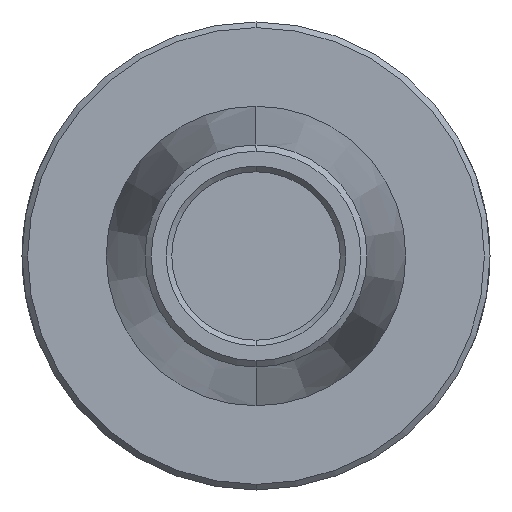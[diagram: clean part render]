
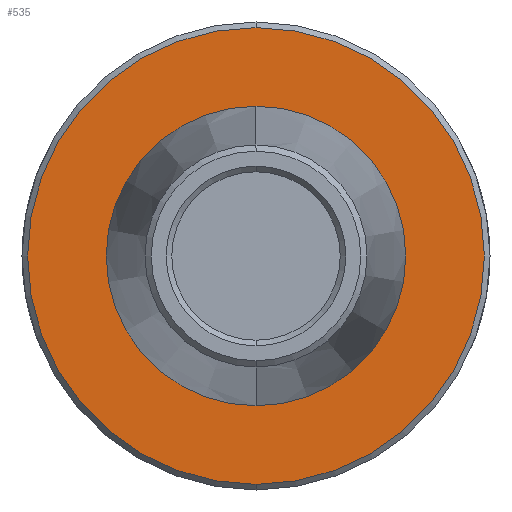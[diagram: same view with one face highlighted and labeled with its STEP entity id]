
A CAD part, front view. The second image highlights one B-rep face of the part: STEP entity #535.
In plain terms, the highlighted planar face has unit normal (0, -1, 0).
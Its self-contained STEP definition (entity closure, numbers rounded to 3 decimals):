
#23 = AXIS2_PLACEMENT_3D ( 'NONE', #168, #560, #638 ) ;
#34 = CIRCLE ( 'NONE', #533, 8. ) ;
#65 = DIRECTION ( 'NONE',  ( 0., -1., 0. ) ) ;
#117 = AXIS2_PLACEMENT_3D ( 'NONE', #898, #980, #681 ) ;
#168 = CARTESIAN_POINT ( 'NONE',  ( 0., 0., 0. ) ) ;
#233 = DIRECTION ( 'NONE',  ( 0., 0., 1. ) ) ;
#253 = EDGE_LOOP ( 'NONE', ( #971, #358 ) ) ;
#255 = DIRECTION ( 'NONE',  ( 0., 0., 1. ) ) ;
#256 = ORIENTED_EDGE ( 'NONE', *, *, #877, .T. ) ;
#259 = CIRCLE ( 'NONE', #23, 8. ) ;
#274 = EDGE_LOOP ( 'NONE', ( #865, #256 ) ) ;
#277 = AXIS2_PLACEMENT_3D ( 'NONE', #487, #794, #255 ) ;
#315 = CIRCLE ( 'NONE', #844, 12.2 ) ;
#347 = EDGE_CURVE ( 'NONE', #431, #705, #34, .T. ) ;
#358 = ORIENTED_EDGE ( 'NONE', *, *, #347, .F. ) ;
#382 = CARTESIAN_POINT ( 'NONE',  ( 0., 0., -12.2 ) ) ;
#421 = CIRCLE ( 'NONE', #117, 12.2 ) ;
#431 = VERTEX_POINT ( 'NONE', #622 ) ;
#448 = EDGE_CURVE ( 'NONE', #836, #455, #315, .T. ) ;
#455 = VERTEX_POINT ( 'NONE', #382 ) ;
#477 = PLANE ( 'NONE',  #277 ) ;
#487 = CARTESIAN_POINT ( 'NONE',  ( 0., 0., 0. ) ) ;
#533 = AXIS2_PLACEMENT_3D ( 'NONE', #837, #65, #614 ) ;
#535 = ADVANCED_FACE ( 'NONE', ( #582, #760 ), #477, .F. ) ;
#560 = DIRECTION ( 'NONE',  ( 0., -1., 0. ) ) ;
#582 = FACE_OUTER_BOUND ( 'NONE', #274, .T. ) ;
#614 = DIRECTION ( 'NONE',  ( 0., 0., 1. ) ) ;
#619 = CARTESIAN_POINT ( 'NONE',  ( 0., 0., 0. ) ) ;
#622 = CARTESIAN_POINT ( 'NONE',  ( 0., 0., 8. ) ) ;
#638 = DIRECTION ( 'NONE',  ( 0., 0., 1. ) ) ;
#681 = DIRECTION ( 'NONE',  ( 0., 0., 1. ) ) ;
#695 = DIRECTION ( 'NONE',  ( 0., -1., 0. ) ) ;
#705 = VERTEX_POINT ( 'NONE', #744 ) ;
#744 = CARTESIAN_POINT ( 'NONE',  ( 0., 0., -8. ) ) ;
#760 = FACE_BOUND ( 'NONE', #253, .T. ) ;
#794 = DIRECTION ( 'NONE',  ( 0., 1., 0. ) ) ;
#836 = VERTEX_POINT ( 'NONE', #893 ) ;
#837 = CARTESIAN_POINT ( 'NONE',  ( 0., 0., 0. ) ) ;
#844 = AXIS2_PLACEMENT_3D ( 'NONE', #619, #695, #233 ) ;
#865 = ORIENTED_EDGE ( 'NONE', *, *, #448, .T. ) ;
#877 = EDGE_CURVE ( 'NONE', #455, #836, #421, .T. ) ;
#893 = CARTESIAN_POINT ( 'NONE',  ( 0., 0., 12.2 ) ) ;
#898 = CARTESIAN_POINT ( 'NONE',  ( 0., 0., 0. ) ) ;
#971 = ORIENTED_EDGE ( 'NONE', *, *, #982, .F. ) ;
#980 = DIRECTION ( 'NONE',  ( 0., -1., 0. ) ) ;
#982 = EDGE_CURVE ( 'NONE', #705, #431, #259, .T. ) ;
